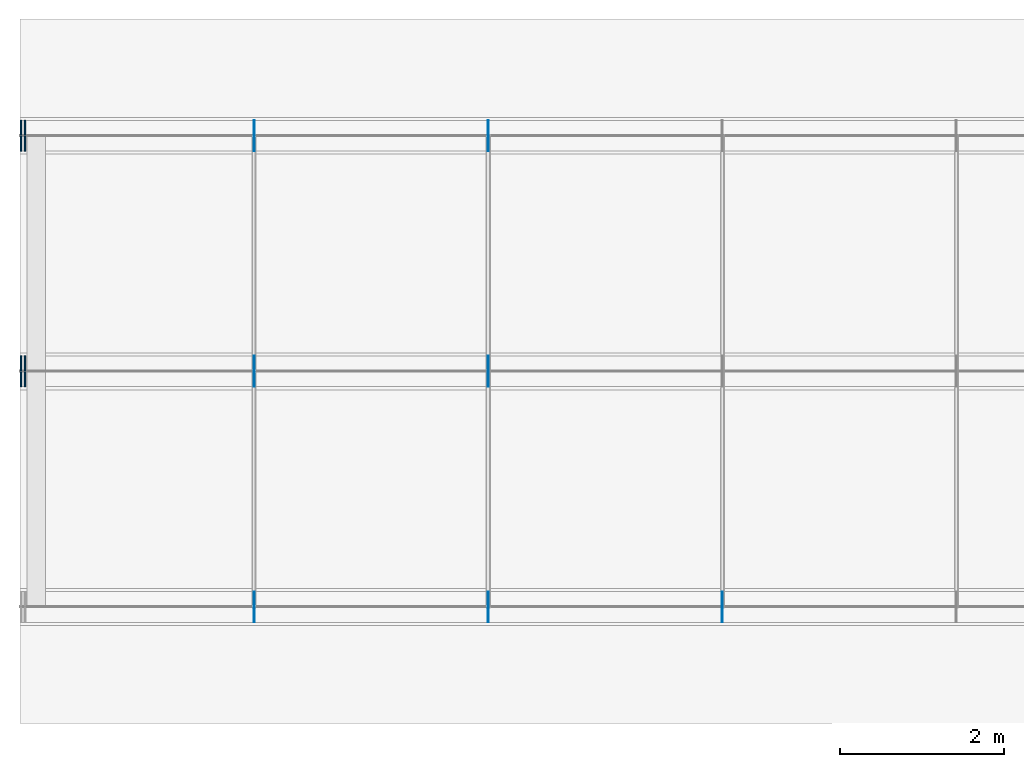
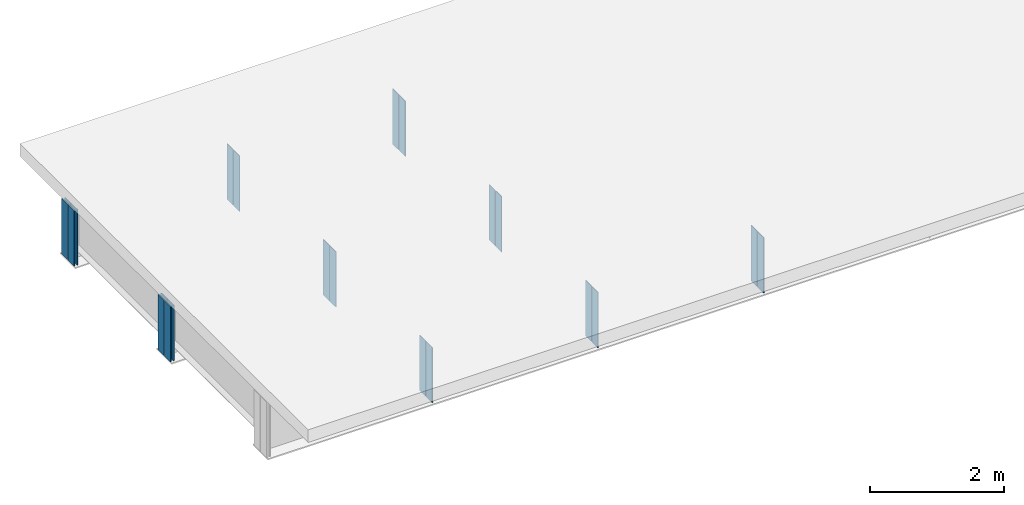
# One storey, part 2 of 8: 22 plates.
"""IFC4 building model written with IfcOpenShell, lengths in metres."""

import ifcopenshell
import ifcopenshell.guid

model = None  # the IFC model being written
_history = None  # IfcOwnerHistory: only IFC2X3 demands one
_inside = {}  # id of a spatial element -> (the spatial element, [elements in it])
_under = {}  # id of a project, library or spatial element -> (it, [spatial elements below it])
_declared = {}  # id of a project -> (the project, [libraries it declares])
_typed = {}  # id of a type object -> (the type object, [elements of that type])
_made_of = {}  # id of a material, layer set ... -> (it, [elements and type objects made of it])


def new_model(schema):
    """Start an empty IFC model of exactly this schema.

    Asked for "IFC4X3", IfcOpenShell would pick the latest addendum, in which some entities
    have other attributes; the version numbers below select the first issue.
    IFC2X3 requires an IfcOwnerHistory on every rooted entity: one is made here for all.
    """
    global model, _history
    if schema == "IFC4X3":
        model = ifcopenshell.file(schema_version=(4, 3, 0, 0))
    else:
        model = ifcopenshell.file(schema=schema)
    _inside.clear()
    _under.clear()
    _declared.clear()
    _typed.clear()
    _made_of.clear()
    _history = None
    if model.schema == "IFC2X3":
        org = make("IfcOrganization", Name="unknown")
        user = make(
            "IfcPersonAndOrganization",
            ThePerson=make("IfcPerson", FamilyName="unknown"),
            TheOrganization=org,
        )
        app = make(
            "IfcApplication",
            ApplicationDeveloper=org,
            Version="unknown",
            ApplicationFullName="unknown",
            ApplicationIdentifier="unknown",
        )
        _history = make(
            "IfcOwnerHistory",
            OwningUser=user,
            OwningApplication=app,
            ChangeAction="ADDED",
            CreationDate=0,
        )
    return model


def make(cls, **values):
    """One entity of the class cls with the attributes given. An attribute that is None is left unset."""
    return model.create_entity(
        cls, **{name: value for name, value in values.items() if value is not None}
    )


def rooted(cls, **values):
    """An entity with a GlobalId (a new one), such as an element, a storey or a relation."""
    return make(cls, GlobalId=ifcopenshell.guid.new(), OwnerHistory=_history, **values)


def si_unit(unit_type, name, prefix=None):
    """IfcSIUnit, for example si_unit("LENGTHUNIT", "METRE", prefix="MILLI")."""
    return make("IfcSIUnit", UnitType=unit_type, Prefix=prefix, Name=name)


def assignment(units):
    """IfcUnitAssignment: the units of a project."""
    return None if units is None else make("IfcUnitAssignment", Units=units)


def point(xyz):
    """IfcCartesianPoint."""
    return None if xyz is None else make("IfcCartesianPoint", Coordinates=xyz)


def direction(xyz):
    """IfcDirection."""
    return None if xyz is None else make("IfcDirection", DirectionRatios=xyz)


def frame(location, z_axis=None, x_axis=None):
    """IfcAxis2Placement3D, a coordinate frame: its origin and axes. An axis left out is left unset."""
    return make(
        "IfcAxis2Placement3D",
        Location=point(location),
        Axis=direction(z_axis),
        RefDirection=direction(x_axis),
    )


def frame_2d(location, x_axis=None):
    """IfcAxis2Placement2D, a coordinate frame in the plane: its origin and x axis."""
    return make(
        "IfcAxis2Placement2D", Location=point(location), RefDirection=direction(x_axis)
    )


def origin():
    """The frame at (0, 0, 0) with its axes left unset."""
    return frame((0.0, 0.0, 0.0))


def origin_with_axes():
    """The frame at (0, 0, 0) with the z axis (0, 0, 1) and the x axis (1, 0, 0) written out."""
    return frame((0.0, 0.0, 0.0), z_axis=(0.0, 0.0, 1.0), x_axis=(1.0, 0.0, 0.0))


def origin_2d_with_axis():
    """The frame at (0, 0) in the plane with the x axis (1, 0) written out."""
    return frame_2d((0.0, 0.0), x_axis=(1.0, 0.0))


def place(relative_to, where):
    """IfcLocalPlacement: puts the frame where relative to a parent placement (None: the world)."""
    return make(
        "IfcLocalPlacement", PlacementRelTo=relative_to, RelativePlacement=where
    )


def context(
    kind, dimensions, precision=None, world=None, true_north=None, identifier=None
):
    """IfcGeometricRepresentationContext, for example the 3D "Model" context."""
    return make(
        "IfcGeometricRepresentationContext",
        ContextIdentifier=identifier,
        ContextType=kind,
        CoordinateSpaceDimension=dimensions,
        Precision=precision,
        WorldCoordinateSystem=world,
        TrueNorth=true_north,
    )


def subcontext(parent, identifier, kind, view, scale=None):
    """IfcGeometricRepresentationSubContext, for example "Body" below "Model"."""
    return make(
        "IfcGeometricRepresentationSubContext",
        ContextIdentifier=identifier,
        ContextType=kind,
        ParentContext=parent,
        TargetScale=scale,
        TargetView=view,
    )


def project(units=None, contexts=None):
    """IfcProject with its units and contexts."""
    return rooted(
        "IfcProject",
        Name="project",
        RepresentationContexts=contexts,
        UnitsInContext=assignment(units),
    )


def spatial(cls, under=None, at=None, **own):
    """A site, building, storey or space (cls), placed at a placement, below another one or the project."""
    s = rooted(cls, ObjectPlacement=at, **own)
    if under is not None:
        _under.setdefault(under.id(), (under, []))[1].append(s)
    return s


def profile(cls, at=None, kind="AREA", **sizes):
    """A parametric profile (cls). Its sizes go by their IFC names, for example OverallWidth=200.0."""
    return make(cls, ProfileType=kind, Position=at, **sizes)


def rectangle(**sizes):
    """IfcRectangleProfileDef."""
    return profile("IfcRectangleProfileDef", **sizes)


def extrude(swept, where, along, depth):
    """IfcExtrudedAreaSolid: the profile swept, set in the frame where, extruded along a direction by depth."""
    return make(
        "IfcExtrudedAreaSolid",
        SweptArea=swept,
        Position=where,
        ExtrudedDirection=direction(along),
        Depth=depth,
    )


def shape(context_of_items, identifier, shape_type, items):
    """IfcShapeRepresentation: the items that make up one representation, for example the "Body"."""
    return make(
        "IfcShapeRepresentation",
        ContextOfItems=context_of_items,
        RepresentationIdentifier=identifier,
        RepresentationType=shape_type,
        Items=items,
    )


def made_of(thing, what):
    """Note that an element or type object is made of a material, layer set ...; save() writes the relation."""
    if what is not None:
        _made_of.setdefault(what.id(), (what, []))[1].append(thing)
    return thing


def element(
    cls,
    number,
    at=None,
    inside=None,
    cuts=None,
    type_object=None,
    material=None,
    context=None,
    identifier="Body",
    shape_type=None,
    held_by="IfcProductDefinitionShape",
    body=None,
    shapes=None,
    **own,
):
    """One element of the class cls, such as IfcWall. Its Tag is "e" and its number.

    at: its placement. inside: the storey or other place that contains it. cuts: it is an
    opening in that element (IfcRelVoidsElement). A single representation is given by context,
    identifier, shape_type and body (its items); several are given by shapes. held_by: the class
    of the entity that holds the representations. save() writes the other relations.
    """
    e = rooted(cls, Tag="e%d" % number, ObjectPlacement=at, **own)
    if body is not None:
        shapes = [shape(context, identifier, shape_type, body)]
    if shapes is not None:
        e.Representation = make(held_by, Representations=shapes)
    if inside is not None:
        _inside.setdefault(inside.id(), (inside, []))[1].append(e)
    if cuts is not None:
        rooted(
            "IfcRelVoidsElement", RelatingBuildingElement=cuts, RelatedOpeningElement=e
        )
    if type_object is not None:
        _typed.setdefault(type_object.id(), (type_object, []))[1].append(e)
    return made_of(e, material)


def aggregate(whole, parts):
    """IfcRelAggregates: a whole, such as a stair, and the parts it consists of."""
    return rooted("IfcRelAggregates", RelatingObject=whole, RelatedObjects=parts)


def save(model, path):
    """Write the relations noted so far, then the file.

    IfcRelAggregates (storeys below a building ...), IfcRelContainedInSpatialStructure (elements
    in a storey), IfcRelDefinesByType, IfcRelAssociatesMaterial and IfcRelDeclares: one each for
    every whole, place, type object, material and project.
    """
    for whole, parts in _under.values():
        aggregate(whole, parts)
    for where, things in _inside.values():
        rooted(
            "IfcRelContainedInSpatialStructure",
            RelatedElements=things,
            RelatingStructure=where,
        )
    for kind, things in _typed.values():
        rooted("IfcRelDefinesByType", RelatedObjects=things, RelatingType=kind)
    for what, things in _made_of.values():
        rooted("IfcRelAssociatesMaterial", RelatedObjects=things, RelatingMaterial=what)
    for by, libraries in _declared.values():
        rooted("IfcRelDeclares", RelatingContext=by, RelatedDefinitions=libraries)
    model.write(path)


model = new_model("IFC4")

# Units and contexts
model_context = context("Model", 3, precision=1e-05, world=origin())
body_context = subcontext(model_context, "Body", "Model", "MODEL_VIEW")
ifc_project = project(units=[si_unit("LENGTHUNIT", "METRE"), si_unit("AREAUNIT", "SQUARE_METRE"), si_unit("VOLUMEUNIT", "CUBIC_METRE"), si_unit("PLANEANGLEUNIT", "RADIAN")], contexts=[model_context])

# Site, building, storey
site_placement = place(None, origin_with_axes())
site = spatial("IfcSite", under=ifc_project, at=site_placement, Name="Default Site")
building_placement = place(site_placement, origin_with_axes())
building = spatial("IfcBuilding", under=site, at=building_placement, Name="Bridge Structure")
storey_placement = place(building_placement, origin_with_axes())
storey = spatial("IfcBuildingStorey", under=building, at=storey_placement, Name="Superstructure")

# Plates
for number, where, z_axis, x_axis, name in (
    (1, (2.857, -2.77825, -0.505), (0.0, 0.0, 1.0), (1.0, 0.0, 0.0), "Intermediate Stiffener 1"),
    (2, (2.857, -2.97175, -0.505), (0.0, 0.0, 1.0), (1.0, 0.0, 0.0), "Intermediate Stiffener 1"),
    (3, (5.714, -2.77825, -0.505), (0.0, 0.0, 1.0), (1.0, 0.0, 0.0), "Intermediate Stiffener 1"),
    (4, (5.714, -2.97175, -0.505), (0.0, 0.0, 1.0), (1.0, 0.0, 0.0), "Intermediate Stiffener 1"),
    (5, (8.571, -2.77825, -0.505), (0.0, 0.0, 1.0), (1.0, 0.0, 0.0), "Intermediate Stiffener 1"),
    (6, (8.571, -2.97175, -0.505), (0.0, 0.0, 1.0), (1.0, 0.0, 0.0), "Intermediate Stiffener 1"),
    (7, (2.857, 0.09675, -0.505), (0.0, 0.0, 1.0), (1.0, 0.0, 0.0), "Intermediate Stiffener 2"),
    (8, (2.857, -0.09675, -0.505), (0.0, 0.0, 1.0), (1.0, 0.0, 0.0), "Intermediate Stiffener 2"),
    (9, (5.714, 0.09675, -0.505), (0.0, 0.0, 1.0), (1.0, 0.0, 0.0), "Intermediate Stiffener 2"),
    (10, (5.714, -0.09675, -0.505), (0.0, 0.0, 1.0), (1.0, 0.0, 0.0), "Intermediate Stiffener 2"),
):
    element("IfcPlate", number, at=place(storey_placement, frame(where, z_axis=z_axis, x_axis=x_axis)), inside=storey, Name=name, context=body_context, shape_type="SweptSolid", body=[
        extrude(rectangle(XDim=0.012, YDim=0.1815, at=origin_2d_with_axis()), origin_with_axes(), (0.0, 0.0, 1.0), 1.01),
    ])
for number, where, z_axis, x_axis, name in (
    (11, (0.01, 0.09675, -0.505), (0.0, 0.0, 1.0), (1.0, 0.0, 0.0), "End Stiffener 2"),
    (12, (0.01, -0.09675, -0.505), (0.0, 0.0, 1.0), (1.0, 0.0, 0.0), "End Stiffener 2"),
    (13, (0.06, 0.09675, -0.505), (0.0, 0.0, 1.0), (1.0, 0.0, 0.0), "End Stiffener 2"),
    (14, (0.06, -0.09675, -0.505), (0.0, 0.0, 1.0), (1.0, 0.0, 0.0), "End Stiffener 2"),
):
    element("IfcPlate", number, at=place(storey_placement, frame(where, z_axis=z_axis, x_axis=x_axis)), inside=storey, Name=name, context=body_context, shape_type="SweptSolid", body=[
        extrude(rectangle(XDim=0.02, YDim=0.1815, at=origin_2d_with_axis()), origin_with_axes(), (0.0, 0.0, 1.0), 1.01),
    ])
for number, where, z_axis, x_axis, name in (
    (15, (2.857, 2.97175, -0.505), (0.0, 0.0, 1.0), (1.0, 0.0, 0.0), "Intermediate Stiffener 3"),
    (16, (2.857, 2.77825, -0.505), (0.0, 0.0, 1.0), (1.0, 0.0, 0.0), "Intermediate Stiffener 3"),
    (17, (5.714, 2.97175, -0.505), (0.0, 0.0, 1.0), (1.0, 0.0, 0.0), "Intermediate Stiffener 3"),
    (18, (5.714, 2.77825, -0.505), (0.0, 0.0, 1.0), (1.0, 0.0, 0.0), "Intermediate Stiffener 3"),
):
    element("IfcPlate", number, at=place(storey_placement, frame(where, z_axis=z_axis, x_axis=x_axis)), inside=storey, Name=name, context=body_context, shape_type="SweptSolid", body=[
        extrude(rectangle(XDim=0.012, YDim=0.1815, at=origin_2d_with_axis()), origin_with_axes(), (0.0, 0.0, 1.0), 1.01),
    ])
for number, where, z_axis, x_axis, name in (
    (19, (0.01, 2.97175, -0.505), (0.0, 0.0, 1.0), (1.0, 0.0, 0.0), "End Stiffener 3"),
    (20, (0.01, 2.77825, -0.505), (0.0, 0.0, 1.0), (1.0, 0.0, 0.0), "End Stiffener 3"),
    (21, (0.06, 2.97175, -0.505), (0.0, 0.0, 1.0), (1.0, 0.0, 0.0), "End Stiffener 3"),
    (22, (0.06, 2.77825, -0.505), (0.0, 0.0, 1.0), (1.0, 0.0, 0.0), "End Stiffener 3"),
):
    element("IfcPlate", number, at=place(storey_placement, frame(where, z_axis=z_axis, x_axis=x_axis)), inside=storey, Name=name, context=body_context, shape_type="SweptSolid", body=[
        extrude(rectangle(XDim=0.02, YDim=0.1815, at=origin_2d_with_axis()), origin_with_axes(), (0.0, 0.0, 1.0), 1.01),
    ])

save(model, "model.ifc")
